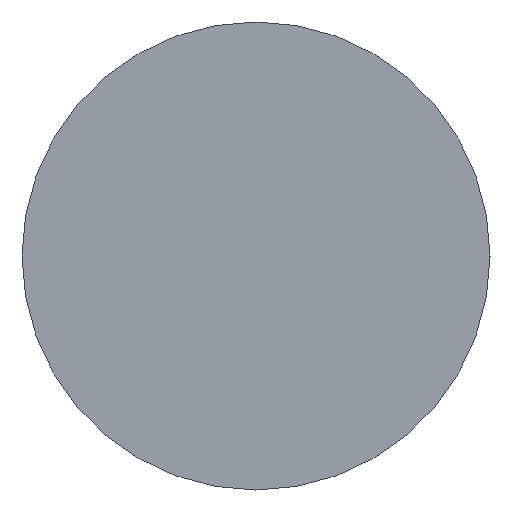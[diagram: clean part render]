
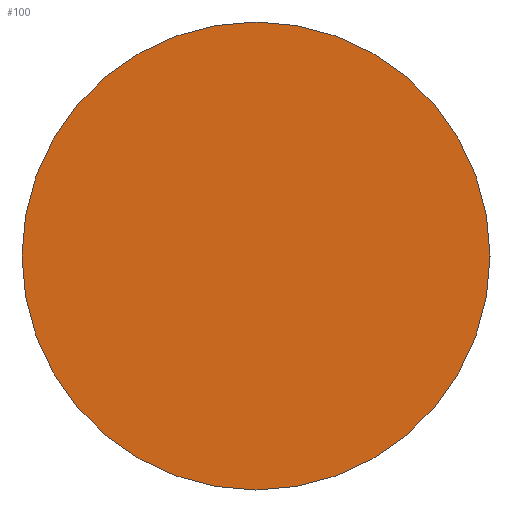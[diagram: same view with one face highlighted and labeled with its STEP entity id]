
A CAD part, left-side view. The second image highlights one B-rep face of the part: STEP entity #100.
In plain terms, the highlighted planar face has unit normal (-1, 0, 0).
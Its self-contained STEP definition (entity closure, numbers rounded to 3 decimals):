
#26 = CARTESIAN_POINT ( 'NONE',  ( -1.75, 0.725, 0.725 ) ) ;
#27 = VERTEX_POINT ( 'NONE', #26 ) ;
#34 = CARTESIAN_POINT ( 'NONE',  ( -1.75, -0.725, 0.725 ) ) ;
#35 = VERTEX_POINT ( 'NONE', #34 ) ;
#36 = CARTESIAN_POINT ( 'NONE',  ( -1.75, 0., 0.725 ) ) ;
#37 = DIRECTION ( 'NONE',  ( -1., 0., 0. ) ) ;
#38 = DIRECTION ( 'NONE',  ( 0., -1., 0. ) ) ;
#39 = AXIS2_PLACEMENT_3D ( 'NONE', #36, #37, #38 ) ;
#40 = CIRCLE ( 'NONE', #39, 0.725) ;
#41 = EDGE_CURVE ( 'NONE', #35, #27, #40, .T. ) ;
#76 = CARTESIAN_POINT ( 'NONE',  ( -1.75, 0., 0.725 ) ) ;
#77 = DIRECTION ( 'NONE',  ( -1., 0., 0. ) ) ;
#78 = DIRECTION ( 'NONE',  ( 0., -1., 0. ) ) ;
#79 = AXIS2_PLACEMENT_3D ( 'NONE', #76, #77, #78 ) ;
#80 = CIRCLE ( 'NONE', #79, 0.725) ;
#81 = EDGE_CURVE ( 'NONE', #27, #35, #80, .T. ) ;
#91 = ORIENTED_EDGE ( 'NONE', *, *, #41, .T. ) ;
#92 = ORIENTED_EDGE ( 'NONE', *, *, #81, .T. ) ;
#93 = EDGE_LOOP ( 'NONE', ( #91, #92 ) ) ;
#94 = FACE_OUTER_BOUND ( 'NONE', #93, .T. ) ;
#95 = CARTESIAN_POINT ( 'NONE',  ( -1.75, 0., 0. ) ) ;
#96 = DIRECTION ( 'NONE',  ( -1., 0., 0. ) ) ;
#97 = DIRECTION ( 'NONE',  ( 0., -1., 0. ) ) ;
#98 = AXIS2_PLACEMENT_3D ( 'NONE', #95, #96, #97 ) ;
#99 = PLANE ( 'NONE', #98 ) ;
#100 = ADVANCED_FACE ( 'NONE', ( #94 ), #99, .T. ) ;
